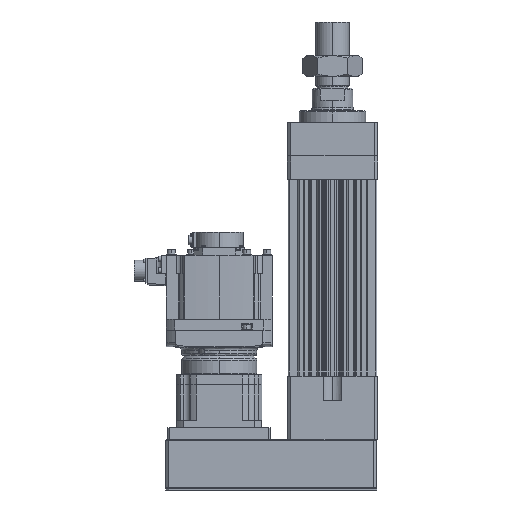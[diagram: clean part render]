
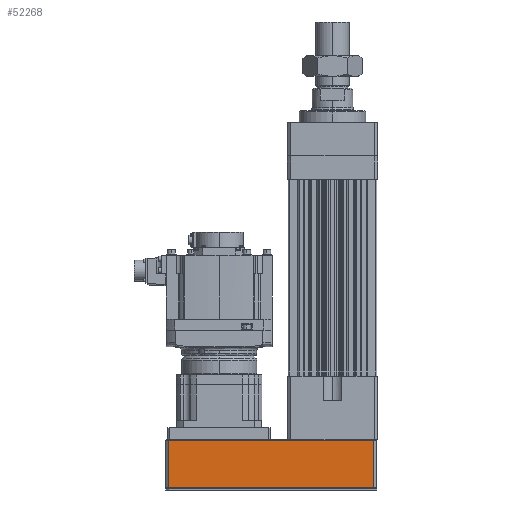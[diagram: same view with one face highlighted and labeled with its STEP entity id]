
A CAD part, left-side view. The second image highlights one B-rep face of the part: STEP entity #52268.
In plain terms, the highlighted planar face has unit normal (-1, 0, 0).
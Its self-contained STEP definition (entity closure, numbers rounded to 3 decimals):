
#779 = CARTESIAN_POINT ( 'NONE',  ( -73.5, -68.5, -186. ) ) ;
#2834 = CARTESIAN_POINT ( 'NONE',  ( -73.5, -68.5, -106.5 ) ) ;
#3158 = AXIS2_PLACEMENT_3D ( 'NONE', #36279, #40395, #11858 ) ;
#9011 = CARTESIAN_POINT ( 'NONE',  ( -73.5, 271.5, -186. ) ) ;
#11124 = DIRECTION ( 'NONE',  ( 0., -1., 0. ) ) ;
#11858 = DIRECTION ( 'NONE',  ( 0., 1., 0. ) ) ;
#13107 = ORIENTED_EDGE ( 'NONE', *, *, #36782, .F. ) ;
#18761 = CARTESIAN_POINT ( 'NONE',  ( -73.5, -68.5, -185.5 ) ) ;
#18929 = CARTESIAN_POINT ( 'NONE',  ( -73.5, 271.5, -185.5 ) ) ;
#20762 = DIRECTION ( 'NONE',  ( 0., 0., 1. ) ) ;
#21408 = CARTESIAN_POINT ( 'NONE',  ( -73.5, -68.5, -185.5 ) ) ;
#22865 = ORIENTED_EDGE ( 'NONE', *, *, #40424, .T. ) ;
#23039 = LINE ( 'NONE', #2834, #32581 ) ;
#23124 = ORIENTED_EDGE ( 'NONE', *, *, #24596, .T. ) ;
#23906 = VERTEX_POINT ( 'NONE', #18929 ) ;
#23970 = EDGE_CURVE ( 'NONE', #23906, #44975, #43051, .T. ) ;
#24596 = EDGE_CURVE ( 'NONE', #44975, #48010, #32078, .T. ) ;
#25236 = VERTEX_POINT ( 'NONE', #28226 ) ;
#25811 = VECTOR ( 'NONE', #11124, 1000. ) ;
#28226 = CARTESIAN_POINT ( 'NONE',  ( -73.5, 271.5, -106.5 ) ) ;
#32078 = LINE ( 'NONE', #779, #35902 ) ;
#32207 = PLANE ( 'NONE',  #3158 ) ;
#32581 = VECTOR ( 'NONE', #43296, 1000. ) ;
#34292 = DIRECTION ( 'NONE',  ( 0., 0., 1. ) ) ;
#35902 = VECTOR ( 'NONE', #20762, 1000. ) ;
#36279 = CARTESIAN_POINT ( 'NONE',  ( -73.5, -68.5, -186. ) ) ;
#36782 = EDGE_CURVE ( 'NONE', #23906, #25236, #44351, .T. ) ;
#38453 = ORIENTED_EDGE ( 'NONE', *, *, #23970, .T. ) ;
#40395 = DIRECTION ( 'NONE',  ( 1., 0., 0. ) ) ;
#40424 = EDGE_CURVE ( 'NONE', #48010, #25236, #23039, .T. ) ;
#40680 = FACE_OUTER_BOUND ( 'NONE', #52608, .T. ) ;
#43051 = LINE ( 'NONE', #18761, #25811 ) ;
#43296 = DIRECTION ( 'NONE',  ( 0., 1., 0. ) ) ;
#44351 = LINE ( 'NONE', #9011, #50096 ) ;
#44975 = VERTEX_POINT ( 'NONE', #21408 ) ;
#46549 = CARTESIAN_POINT ( 'NONE',  ( -73.5, -68.5, -106.5 ) ) ;
#48010 = VERTEX_POINT ( 'NONE', #46549 ) ;
#50096 = VECTOR ( 'NONE', #34292, 1000. ) ;
#52268 = ADVANCED_FACE ( 'NONE', ( #40680 ), #32207, .F. ) ;
#52608 = EDGE_LOOP ( 'NONE', ( #13107, #38453, #23124, #22865 ) ) ;
